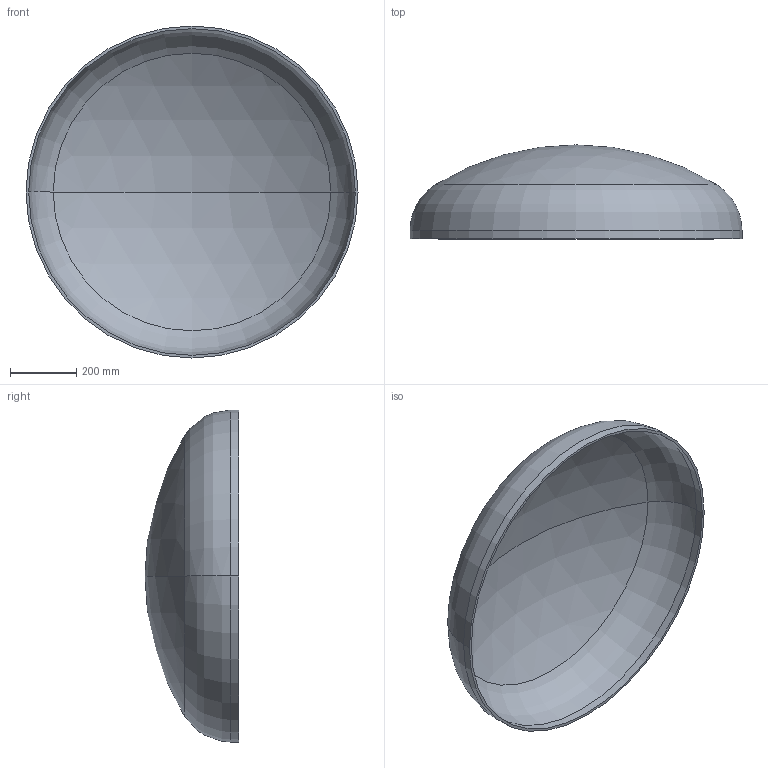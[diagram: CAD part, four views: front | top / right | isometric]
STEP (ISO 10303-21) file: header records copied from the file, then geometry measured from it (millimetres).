
FILE_DESCRIPTION (( 'STEP AP203' ), '1' );
FILE_NAME ('DIN 28013 Korbbogenform_-_Boden DIN 28013 - 1000 x 25 - I - s=8.step', '2016-07-01T08:41:42', ( '' ), ( '' ), 'SwSTEP 2.0', 'SolidWorks 2013', '' );
FILE_SCHEMA (( 'CONFIG_CONTROL_DESIGN' ));
Length unit declared in the file: millimetre
Products named in the file (1): DIN 28013 Korbbogenform_-_Boden DIN 28013 - 1000 x 25 - I - s=8
Bounding box: 1000 x 283.04 x 1000 mm (x, y, z)
Volume: 9244831.5 mm3; surface area: 2336272.7 mm2
Topology: 1 solids, 1 shells, 13 faces, 24 edges, 14 vertices
Faces by surface type: torus 4, cylinder 4, sphere 4, plane 1
Entity records: 407 total; most frequent: DIRECTION 72, CARTESIAN_POINT 52, ORIENTED_EDGE 48, AXIS2_PLACEMENT_3D 34, EDGE_CURVE 24, CIRCLE 20, EDGE_LOOP 14, VERTEX_POINT 14
